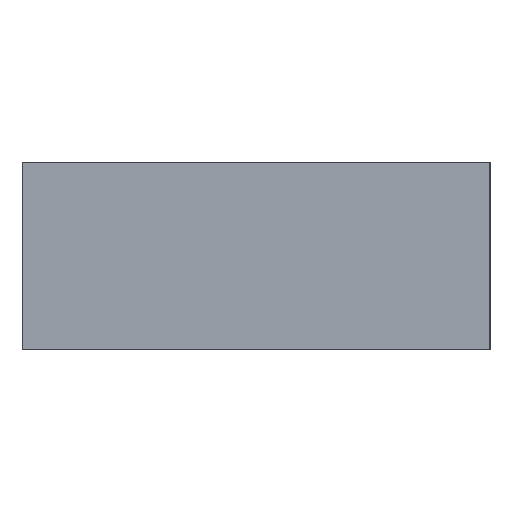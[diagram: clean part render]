
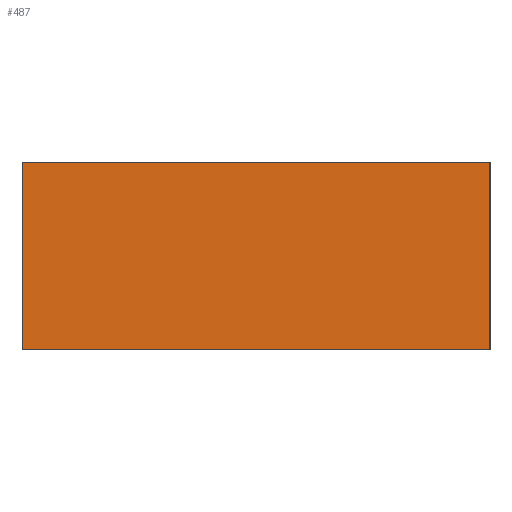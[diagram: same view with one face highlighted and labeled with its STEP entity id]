
A CAD part, left-side view. The second image highlights one B-rep face of the part: STEP entity #487.
In plain terms, the highlighted planar face has unit normal (-1, 0, 0).
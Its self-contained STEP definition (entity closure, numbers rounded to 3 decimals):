
#367 = EDGE_CURVE( '', #671, #495, #878, .T. );
#369 = EDGE_CURVE( '', #387, #671, #880, .T. );
#387 = VERTEX_POINT( '', #898 );
#487 = ADVANCED_FACE( '', ( #1007 ), #1008, .T. );
#495 = VERTEX_POINT( '', #1016 );
#571 = EDGE_CURVE( '', #387, #739, #1102, .T. );
#671 = VERTEX_POINT( '', #1212 );
#739 = VERTEX_POINT( '', #1289 );
#747 = EDGE_CURVE( '', #739, #495, #1297, .T. );
#878 = LINE( '', #1467, #1468 );
#880 = LINE( '', #1471, #1472 );
#898 = CARTESIAN_POINT( '', ( -4., 0., 7. ) );
#1007 = FACE_OUTER_BOUND( '', #1658, .T. );
#1008 = PLANE( '', #1659 );
#1016 = CARTESIAN_POINT( '', ( -4., -35., -7. ) );
#1102 = LINE( '', #1792, #1793 );
#1212 = CARTESIAN_POINT( '', ( -4., -35., 7. ) );
#1289 = CARTESIAN_POINT( '', ( -4., 0., -7. ) );
#1297 = LINE( '', #2065, #2066 );
#1467 = CARTESIAN_POINT( '', ( -4., -35., 7. ) );
#1468 = VECTOR( '', #2157, 1. );
#1471 = CARTESIAN_POINT( '', ( -4., 0., 7. ) );
#1472 = VECTOR( '', #2158, 1. );
#1658 = EDGE_LOOP( '', ( #2282, #2283, #2284, #2285 ) );
#1659 = AXIS2_PLACEMENT_3D( '', #2286, #2287, #2288 );
#1792 = CARTESIAN_POINT( '', ( -4., 0., 7. ) );
#1793 = VECTOR( '', #2399, 1. );
#2065 = CARTESIAN_POINT( '', ( -4., 0., -7. ) );
#2066 = VECTOR( '', #2624, 1. );
#2157 = DIRECTION( '', ( 0., 0., -1. ) );
#2158 = DIRECTION( '', ( 0., -1., 0. ) );
#2282 = ORIENTED_EDGE( '', *, *, #747, .T. );
#2283 = ORIENTED_EDGE( '', *, *, #367, .F. );
#2284 = ORIENTED_EDGE( '', *, *, #369, .F. );
#2285 = ORIENTED_EDGE( '', *, *, #571, .T. );
#2286 = CARTESIAN_POINT( '', ( -4., 0., 7. ) );
#2287 = DIRECTION( '', ( -1., 0., 0. ) );
#2288 = DIRECTION( '', ( 0., 1., 0. ) );
#2399 = DIRECTION( '', ( 0., 0., -1. ) );
#2624 = DIRECTION( '', ( 0., -1., 0. ) );
